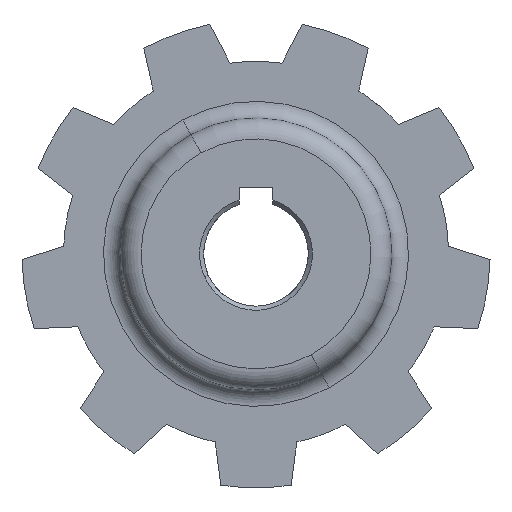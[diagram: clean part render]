
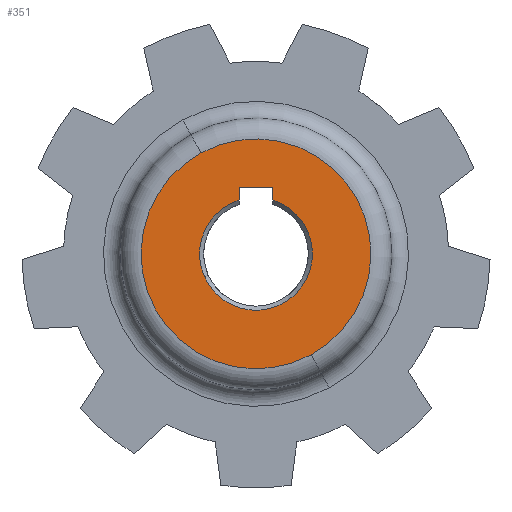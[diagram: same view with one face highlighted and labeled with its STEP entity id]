
A CAD part, left-side view. The second image highlights one B-rep face of the part: STEP entity #351.
In plain terms, the highlighted planar face has unit normal (-1, 0, 0).
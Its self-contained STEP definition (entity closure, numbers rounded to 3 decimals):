
#351=ADVANCED_FACE('',(#950,#951),#952,.F.);
#407=EDGE_CURVE('',#1046,#1047,#1048,.T.);
#475=EDGE_CURVE('',#1145,#1146,#1147,.T.);
#497=EDGE_CURVE('',#1175,#1176,#1177,.F.);
#627=EDGE_CURVE('',#1346,#1175,#1349,.F.);
#657=EDGE_CURVE('',#1176,#1145,#1388,.F.);
#719=EDGE_CURVE('',#1468,#1346,#1469,.T.);
#777=EDGE_CURVE('',#1047,#1046,#1532,.T.);
#799=EDGE_CURVE('',#1146,#1468,#1557,.F.);
#950=FACE_BOUND('',#1747,.T.);
#951=FACE_OUTER_BOUND('',#1748,.T.);
#952=PLANE('',#1749);
#1046=VERTEX_POINT('',#1897);
#1047=VERTEX_POINT('',#1898);
#1048=CIRCLE('',#1899,27.5);
#1145=VERTEX_POINT('',#2062);
#1146=VERTEX_POINT('',#2063);
#1147=LINE('',#2064,#2065);
#1175=VERTEX_POINT('',#2107);
#1176=VERTEX_POINT('',#2108);
#1177=CIRCLE('',#2109,13.5);
#1346=VERTEX_POINT('',#2408);
#1349=CIRCLE('',#2415,13.5);
#1388=CIRCLE('',#2473,13.5);
#1468=VERTEX_POINT('',#2605);
#1469=LINE('',#2606,#2607);
#1532=CIRCLE('',#2711,27.5);
#1557=LINE('',#2757,#2758);
#1747=EDGE_LOOP('',(#2931,#2932,#2933,#2934,#2935,#2936));
#1748=EDGE_LOOP('',(#2937,#2938));
#1749=AXIS2_PLACEMENT_3D('',#2939,#2940,#2941);
#1897=CARTESIAN_POINT('',(-21.25,-13.184,-24.134));
#1898=CARTESIAN_POINT('',(-21.25,13.184,24.134));
#1899=AXIS2_PLACEMENT_3D('',#3004,#3005,#3006);
#2062=CARTESIAN_POINT('',(-21.25,-4.0,12.894));
#2063=CARTESIAN_POINT('',(-21.25,-4.0,15.8));
#2064=CARTESIAN_POINT('',(-21.25,-4.0,14.347));
#2065=VECTOR('',#3153,1.0);
#2107=CARTESIAN_POINT('',(-21.25,12.329,-5.5));
#2108=CARTESIAN_POINT('',(-21.25,-12.329,5.5));
#2109=AXIS2_PLACEMENT_3D('',#3197,#3198,#3199);
#2408=CARTESIAN_POINT('',(-21.25,4.,12.894));
#2415=AXIS2_PLACEMENT_3D('',#3450,#3451,#3452);
#2473=AXIS2_PLACEMENT_3D('',#3518,#3519,#3520);
#2605=CARTESIAN_POINT('',(-21.25,4.0,15.8));
#2606=CARTESIAN_POINT('',(-21.25,4.0,14.347));
#2607=VECTOR('',#3645,1.0);
#2711=AXIS2_PLACEMENT_3D('',#3728,#3729,#3730);
#2757=CARTESIAN_POINT('',(-21.25,0.0,15.8));
#2758=VECTOR('',#3765,1.0);
#2931=ORIENTED_EDGE('',*,*,#627,.F.);
#2932=ORIENTED_EDGE('',*,*,#719,.F.);
#2933=ORIENTED_EDGE('',*,*,#799,.F.);
#2934=ORIENTED_EDGE('',*,*,#475,.F.);
#2935=ORIENTED_EDGE('',*,*,#657,.F.);
#2936=ORIENTED_EDGE('',*,*,#497,.F.);
#2937=ORIENTED_EDGE('',*,*,#777,.T.);
#2938=ORIENTED_EDGE('',*,*,#407,.T.);
#2939=CARTESIAN_POINT('',(-21.25,0.0,0.0));
#2940=DIRECTION('',(1.0,0.0,0.0));
#2941=DIRECTION('',(0.0,1.0,-0.0));
#3004=CARTESIAN_POINT('',(-21.25,0.0,0.0));
#3005=DIRECTION('',(-1.0,0.0,0.0));
#3006=DIRECTION('',(0.0,-1.0,0.0));
#3153=DIRECTION('',(0.0,0.0,1.0));
#3197=CARTESIAN_POINT('',(-21.25,0.,0.));
#3198=DIRECTION('',(1.0,0.0,0.0));
#3199=DIRECTION('',(0.0,1.0,0.0));
#3450=CARTESIAN_POINT('',(-21.25,0.,0.));
#3451=DIRECTION('',(1.0,0.0,0.0));
#3452=DIRECTION('',(0.0,1.0,0.0));
#3518=CARTESIAN_POINT('',(-21.25,0.,0.));
#3519=DIRECTION('',(1.0,0.0,0.0));
#3520=DIRECTION('',(0.0,1.0,0.0));
#3645=DIRECTION('',(0.0,0.0,-1.0));
#3728=CARTESIAN_POINT('',(-21.25,0.0,0.0));
#3729=DIRECTION('',(-1.0,0.0,0.0));
#3730=DIRECTION('',(0.0,-1.0,0.0));
#3765=DIRECTION('',(0.0,-1.0,0.0));
